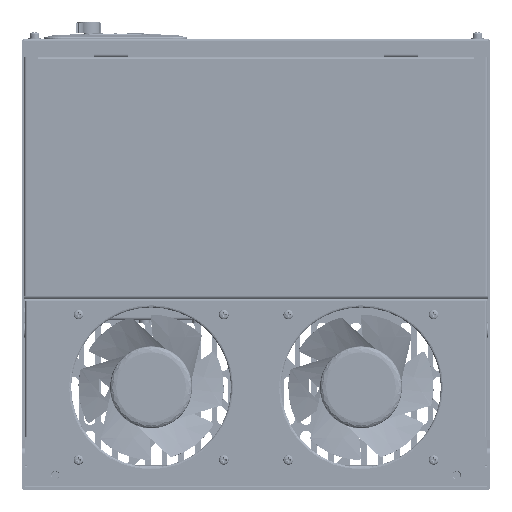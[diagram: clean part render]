
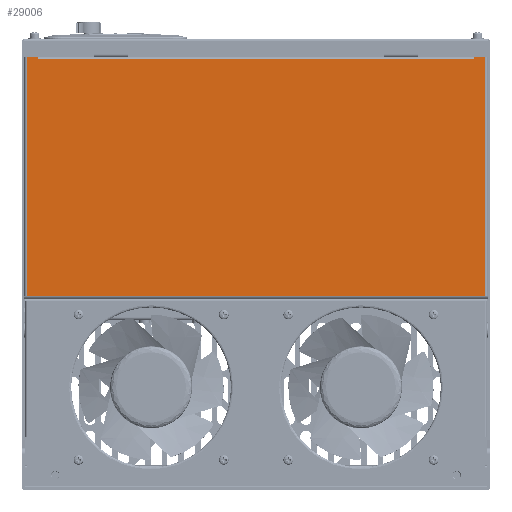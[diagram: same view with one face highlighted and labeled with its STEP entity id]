
A CAD part, left-side view. The second image highlights one B-rep face of the part: STEP entity #29006.
In plain terms, the highlighted planar face has unit normal (-1, 0, 0) as drawn and (0, 0, -1) by its records, which use the part's own axes.
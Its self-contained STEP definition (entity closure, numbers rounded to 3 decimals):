
#25485=DIRECTION('',(0.,1.,0.));
#25486=VECTOR('',#25485,1.5);
#25487=CARTESIAN_POINT('',(-157.6,171.5,-119.6));
#25488=LINE('',#25487,#25486);
#25489=DIRECTION('',(1.,0.,0.));
#25490=VECTOR('',#25489,8.);
#25491=CARTESIAN_POINT('',(-165.6,173.,-119.6));
#25492=LINE('',#25491,#25490);
#25493=DIRECTION('',(1.,0.,0.));
#25494=VECTOR('',#25493,8.);
#25495=CARTESIAN_POINT('',(157.6,173.,-119.6));
#25496=LINE('',#25495,#25494);
#25497=DIRECTION('',(0.,1.,0.));
#25498=VECTOR('',#25497,1.5);
#25499=CARTESIAN_POINT('',(157.6,171.5,-119.6));
#25500=LINE('',#25499,#25498);
#25510=DIRECTION('',(-1.,0.,0.));
#25511=VECTOR('',#25510,315.2);
#25512=CARTESIAN_POINT('',(157.6,171.5,-119.6));
#25513=LINE('',#25512,#25511);
#25796=DIRECTION('',(0.,-1.,0.));
#25797=VECTOR('',#25796,172.5);
#25798=CARTESIAN_POINT('',(-165.6,173.,-119.6));
#25799=LINE('',#25798,#25797);
#25950=DIRECTION('',(0.,1.,0.));
#25951=VECTOR('',#25950,172.5);
#25952=CARTESIAN_POINT('',(165.6,0.5,-119.6));
#25953=LINE('',#25952,#25951);
#26073=DIRECTION('',(-1.,0.,0.));
#26074=VECTOR('',#26073,331.2);
#26075=CARTESIAN_POINT('',(165.6,0.5,-119.6));
#26076=LINE('',#26075,#26074);
#28243=CARTESIAN_POINT('',(-157.6,171.5,-119.6));
#28244=CARTESIAN_POINT('',(-157.6,173.,-119.6));
#28245=VERTEX_POINT('',#28243);
#28246=VERTEX_POINT('',#28244);
#28251=CARTESIAN_POINT('',(157.6,171.5,-119.6));
#28252=CARTESIAN_POINT('',(157.6,173.,-119.6));
#28253=VERTEX_POINT('',#28251);
#28254=VERTEX_POINT('',#28252);
#28309=CARTESIAN_POINT('',(165.6,0.5,-119.6));
#28310=VERTEX_POINT('',#28309);
#28319=CARTESIAN_POINT('',(165.6,173.,-119.6));
#28320=VERTEX_POINT('',#28319);
#28333=CARTESIAN_POINT('',(-165.6,0.5,-119.6));
#28334=VERTEX_POINT('',#28333);
#28343=CARTESIAN_POINT('',(-165.6,173.,-119.6));
#28344=VERTEX_POINT('',#28343);
#28983=CARTESIAN_POINT('',(-167.6,-1.5,-119.6));
#28984=DIRECTION('',(0.,0.,-1.));
#28985=DIRECTION('',(-1.,0.,0.));
#28986=AXIS2_PLACEMENT_3D('',#28983,#28984,#28985);
#28987=PLANE('',#28986);
#28989=ORIENTED_EDGE('',*,*,#28988,.T.);
#28991=ORIENTED_EDGE('',*,*,#28990,.T.);
#28993=ORIENTED_EDGE('',*,*,#28992,.F.);
#28995=ORIENTED_EDGE('',*,*,#28994,.T.);
#28997=ORIENTED_EDGE('',*,*,#28996,.F.);
#28999=ORIENTED_EDGE('',*,*,#28998,.T.);
#29001=ORIENTED_EDGE('',*,*,#29000,.F.);
#29003=ORIENTED_EDGE('',*,*,#29002,.F.);
#29004=EDGE_LOOP('',(#28989,#28991,#28993,#28995,#28997,#28999,#29001,#29003));
#29005=FACE_OUTER_BOUND('',#29004,.F.);
#29006=ADVANCED_FACE('',(#29005),#28987,.T.);
#28988=EDGE_CURVE('',#28253,#28245,#25513,.T.);
#28990=EDGE_CURVE('',#28245,#28246,#25488,.T.);
#28992=EDGE_CURVE('',#28344,#28246,#25492,.T.);
#28994=EDGE_CURVE('',#28344,#28334,#25799,.T.);
#28996=EDGE_CURVE('',#28310,#28334,#26076,.T.);
#28998=EDGE_CURVE('',#28310,#28320,#25953,.T.);
#29000=EDGE_CURVE('',#28254,#28320,#25496,.T.);
#29002=EDGE_CURVE('',#28253,#28254,#25500,.T.);
